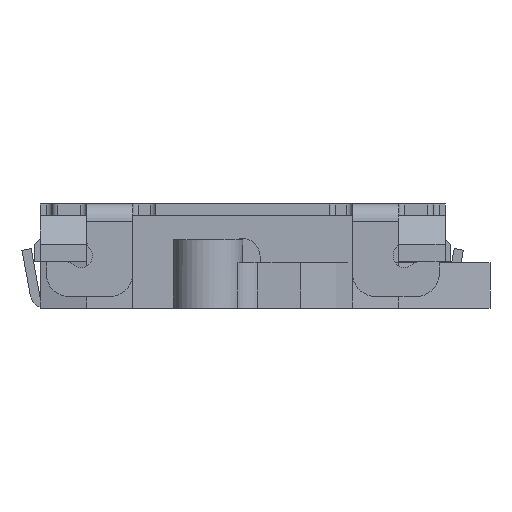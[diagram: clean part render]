
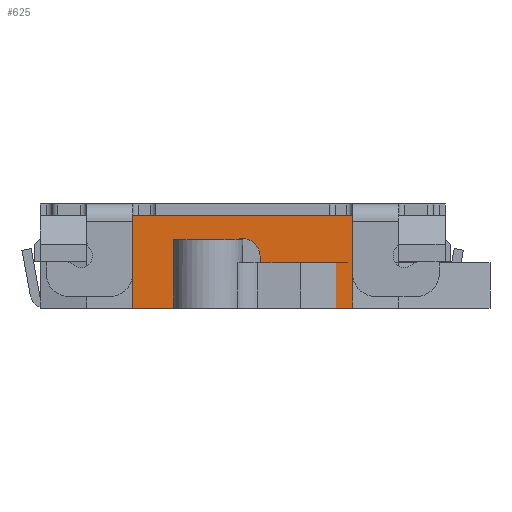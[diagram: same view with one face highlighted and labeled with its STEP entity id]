
A CAD part, front view. The second image highlights one B-rep face of the part: STEP entity #625.
In plain terms, the highlighted planar face has unit normal (0, -1, 0).
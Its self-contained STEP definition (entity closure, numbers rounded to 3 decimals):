
#625 = ADVANCED_FACE( '', ( #1252 ), #1253, .F. );
#1252 = FACE_OUTER_BOUND( '', #1902, .T. );
#1253 = PLANE( '', #1903 );
#1902 = EDGE_LOOP( '', ( #3700, #3701, #3702, #3703, #3704, #3705, #3706, #3707 ) );
#1903 = AXIS2_PLACEMENT_3D( '', #3708, #3709, #3710 );
#3700 = ORIENTED_EDGE( '', *, *, #4248, .F. );
#3701 = ORIENTED_EDGE( '', *, *, #4182, .T. );
#3702 = ORIENTED_EDGE( '', *, *, #4388, .T. );
#3703 = ORIENTED_EDGE( '', *, *, #4575, .T. );
#3704 = ORIENTED_EDGE( '', *, *, #4601, .T. );
#3705 = ORIENTED_EDGE( '', *, *, #4219, .F. );
#3706 = ORIENTED_EDGE( '', *, *, #4681, .F. );
#3707 = ORIENTED_EDGE( '', *, *, #4576, .T. );
#3708 = CARTESIAN_POINT( '', ( -1.75, -0.3, 0.8 ) );
#3709 = DIRECTION( '', ( 0., 1., 0. ) );
#3710 = DIRECTION( '', ( -1., 0., 0. ) );
#4182 = EDGE_CURVE( '', #5127, #5125, #5128, .T. );
#4219 = EDGE_CURVE( '', #5185, #5187, #5188, .T. );
#4248 = EDGE_CURVE( '', #5127, #5232, #5233, .T. );
#4388 = EDGE_CURVE( '', #5125, #5455, #5457, .T. );
#4575 = EDGE_CURVE( '', #5455, #5712, #5714, .T. );
#4576 = EDGE_CURVE( '', #5715, #5232, #5716, .T. );
#4601 = EDGE_CURVE( '', #5712, #5187, #5743, .T. );
#4681 = EDGE_CURVE( '', #5715, #5185, #5826, .T. );
#5125 = VERTEX_POINT( '', #6410 );
#5127 = VERTEX_POINT( '', #6413 );
#5128 = CIRCLE( '', #6414, 0.15 );
#5185 = VERTEX_POINT( '', #6492 );
#5187 = VERTEX_POINT( '', #6495 );
#5188 = LINE( '', #6496, #6497 );
#5232 = VERTEX_POINT( '', #6559 );
#5233 = LINE( '', #6560, #6561 );
#5455 = VERTEX_POINT( '', #6876 );
#5457 = LINE( '', #6879, #6880 );
#5712 = VERTEX_POINT( '', #7236 );
#5714 = LINE( '', #7239, #7240 );
#5715 = VERTEX_POINT( '', #7241 );
#5716 = LINE( '', #7242, #7243 );
#5743 = LINE( '', #7286, #7287 );
#5826 = LINE( '', #7399, #7400 );
#6410 = CARTESIAN_POINT( '', ( 0.15, -0.3, 0.45 ) );
#6413 = CARTESIAN_POINT( '', ( -0.15, -0.3, 0.45 ) );
#6414 = AXIS2_PLACEMENT_3D( '', #7737, #7738, #7739 );
#6492 = CARTESIAN_POINT( '', ( -0.95, -0.3, 0.8 ) );
#6495 = CARTESIAN_POINT( '', ( 0.95, -0.3, 0.8 ) );
#6496 = CARTESIAN_POINT( '', ( -1.75, -0.3, 0.8 ) );
#6497 = VECTOR( '', #7780, 1000. );
#6559 = CARTESIAN_POINT( '', ( -0.15, -0.3, 0. ) );
#6560 = CARTESIAN_POINT( '', ( -0.15, -0.3, 0. ) );
#6561 = VECTOR( '', #7811, 1000. );
#6876 = CARTESIAN_POINT( '', ( 0.15, -0.3, 0. ) );
#6879 = CARTESIAN_POINT( '', ( 0.15, -0.3, 0. ) );
#6880 = VECTOR( '', #7972, 1000. );
#7236 = CARTESIAN_POINT( '', ( 0.95, -0.3, 0. ) );
#7239 = CARTESIAN_POINT( '', ( -1.75, -0.3, 0. ) );
#7240 = VECTOR( '', #8186, 1000. );
#7241 = CARTESIAN_POINT( '', ( -0.95, -0.3, 0. ) );
#7242 = CARTESIAN_POINT( '', ( -1.75, -0.3, 0. ) );
#7243 = VECTOR( '', #8187, 1000. );
#7286 = CARTESIAN_POINT( '', ( 0.95, -0.3, 0.8 ) );
#7287 = VECTOR( '', #8210, 1000. );
#7399 = CARTESIAN_POINT( '', ( -0.95, -0.3, 0.8 ) );
#7400 = VECTOR( '', #8255, 1000. );
#7737 = CARTESIAN_POINT( '', ( 0., -0.3, 0.45 ) );
#7738 = DIRECTION( '', ( 0., 1., 0. ) );
#7739 = DIRECTION( '', ( -1., 0., 0. ) );
#7780 = DIRECTION( '', ( 1., 0., 0. ) );
#7811 = DIRECTION( '', ( 0., 0., -1. ) );
#7972 = DIRECTION( '', ( 0., 0., -1. ) );
#8186 = DIRECTION( '', ( 1., 0., 0. ) );
#8187 = DIRECTION( '', ( 1., 0., 0. ) );
#8210 = DIRECTION( '', ( 0., 0., 1. ) );
#8255 = DIRECTION( '', ( 0., 0., 1. ) );
